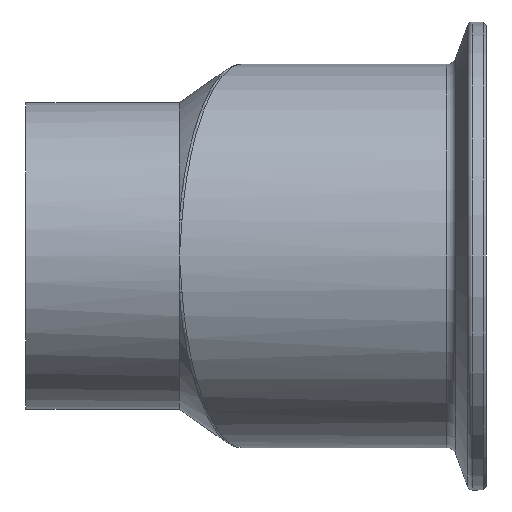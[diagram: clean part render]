
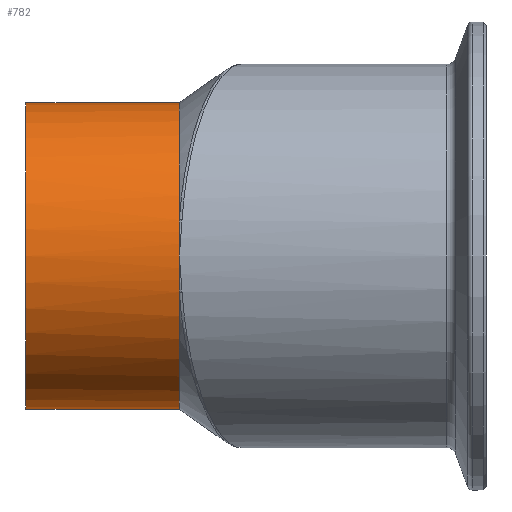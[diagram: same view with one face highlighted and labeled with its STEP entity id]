
A CAD part, front view. The second image highlights one B-rep face of the part: STEP entity #782.
In plain terms, the highlighted cylindrical face has radius 25.4 mm (diameter 50.8 mm), a partial arc.
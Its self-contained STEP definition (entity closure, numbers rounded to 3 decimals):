
#176 = CYLINDRICAL_SURFACE ( 'NONE', #731, 25.4 ) ;
#212 = DIRECTION ( 'NONE',  ( 0., 0., -1. ) ) ;
#234 = CARTESIAN_POINT ( 'NONE',  ( -12.7, -31.036, 5.98 ) ) ;
#248 = VERTEX_POINT ( 'NONE', #1276 ) ;
#317 = EDGE_CURVE ( 'NONE', #736, #647, #447, .T. ) ;
#333 = ORIENTED_EDGE ( 'NONE', *, *, #1419, .F. ) ;
#369 = CARTESIAN_POINT ( 'NONE',  ( 6.473, -6.35, -25.4 ) ) ;
#385 = CARTESIAN_POINT ( 'NONE',  ( -12.7, -6.35, 0. ) ) ;
#388 = ORIENTED_EDGE ( 'NONE', *, *, #958, .F. ) ;
#398 = CIRCLE ( 'NONE', #2001, 25.4 ) ;
#432 = DIRECTION ( 'NONE',  ( 0., 0., -1. ) ) ;
#446 = ORIENTED_EDGE ( 'NONE', *, *, #317, .T. ) ;
#447 = LINE ( 'NONE', #369, #1316 ) ;
#463 = VERTEX_POINT ( 'NONE', #1324 ) ;
#469 = VERTEX_POINT ( 'NONE', #1757 ) ;
#530 = ORIENTED_EDGE ( 'NONE', *, *, #1950, .T. ) ;
#550 = DIRECTION ( 'NONE',  ( 1., 0., 0. ) ) ;
#561 = CARTESIAN_POINT ( 'NONE',  ( -12.7, -6.35, 0. ) ) ;
#647 = VERTEX_POINT ( 'NONE', #1145 ) ;
#684 = EDGE_CURVE ( 'NONE', #1091, #647, #1576, .T. ) ;
#731 = AXIS2_PLACEMENT_3D ( 'NONE', #788, #1100, #1021 ) ;
#736 = VERTEX_POINT ( 'NONE', #766 ) ;
#755 = CIRCLE ( 'NONE', #1583, 25.4 ) ;
#766 = CARTESIAN_POINT ( 'NONE',  ( -38.1, -6.35, -25.4 ) ) ;
#776 = VECTOR ( 'NONE', #938, 1000. ) ;
#782 = ADVANCED_FACE ( 'NONE', ( #1475 ), #176, .T. ) ;
#788 = CARTESIAN_POINT ( 'NONE',  ( 6.473, -6.35, 0. ) ) ;
#870 = EDGE_CURVE ( 'NONE', #469, #1091, #908, .T. ) ;
#908 = CIRCLE ( 'NONE', #1591, 25.4 ) ;
#930 = VERTEX_POINT ( 'NONE', #234 ) ;
#938 = DIRECTION ( 'NONE',  ( 1., 0., 0. ) ) ;
#958 = EDGE_CURVE ( 'NONE', #930, #469, #398, .T. ) ;
#1021 = DIRECTION ( 'NONE',  ( 0., 0., -1. ) ) ;
#1031 = DIRECTION ( 'NONE',  ( 0., 0., -1. ) ) ;
#1042 = DIRECTION ( 'NONE',  ( 1., 0., 0. ) ) ;
#1078 = CARTESIAN_POINT ( 'NONE',  ( 6.473, -6.35, 25.4 ) ) ;
#1080 = CARTESIAN_POINT ( 'NONE',  ( -12.7, -6.35, 0. ) ) ;
#1091 = VERTEX_POINT ( 'NONE', #1385 ) ;
#1100 = DIRECTION ( 'NONE',  ( 1., 0., 0. ) ) ;
#1145 = CARTESIAN_POINT ( 'NONE',  ( -12.7, -6.35, -25.4 ) ) ;
#1211 = AXIS2_PLACEMENT_3D ( 'NONE', #1080, #1042, #1031 ) ;
#1232 = LINE ( 'NONE', #1078, #776 ) ;
#1272 = ORIENTED_EDGE ( 'NONE', *, *, #870, .F. ) ;
#1276 = CARTESIAN_POINT ( 'NONE',  ( -38.1, -6.35, 25.4 ) ) ;
#1285 = EDGE_CURVE ( 'NONE', #248, #463, #1232, .T. ) ;
#1316 = VECTOR ( 'NONE', #1494, 1000. ) ;
#1324 = CARTESIAN_POINT ( 'NONE',  ( -12.7, -6.35, 25.4 ) ) ;
#1385 = CARTESIAN_POINT ( 'NONE',  ( -12.7, -31.036, -5.98 ) ) ;
#1389 = CARTESIAN_POINT ( 'NONE',  ( -38.1, -6.35, 0. ) ) ;
#1402 = DIRECTION ( 'NONE',  ( 0., 0., -1. ) ) ;
#1408 = ORIENTED_EDGE ( 'NONE', *, *, #1285, .F. ) ;
#1419 = EDGE_CURVE ( 'NONE', #463, #930, #1536, .T. ) ;
#1475 = FACE_OUTER_BOUND ( 'NONE', #1928, .T. ) ;
#1494 = DIRECTION ( 'NONE',  ( 1., 0., 0. ) ) ;
#1508 = DIRECTION ( 'NONE',  ( 1., 0., 0. ) ) ;
#1528 = CARTESIAN_POINT ( 'NONE',  ( -12.7, -6.35, 0. ) ) ;
#1536 = CIRCLE ( 'NONE', #1211, 25.4 ) ;
#1576 = CIRCLE ( 'NONE', #2037, 25.4 ) ;
#1583 = AXIS2_PLACEMENT_3D ( 'NONE', #1389, #2041, #212 ) ;
#1591 = AXIS2_PLACEMENT_3D ( 'NONE', #561, #550, #432 ) ;
#1623 = DIRECTION ( 'NONE',  ( 0., 0., -1. ) ) ;
#1662 = ORIENTED_EDGE ( 'NONE', *, *, #684, .F. ) ;
#1757 = CARTESIAN_POINT ( 'NONE',  ( -12.7, -31.75, 0. ) ) ;
#1928 = EDGE_LOOP ( 'NONE', ( #1408, #530, #446, #1662, #1272, #388, #333 ) ) ;
#1950 = EDGE_CURVE ( 'NONE', #248, #736, #755, .T. ) ;
#2001 = AXIS2_PLACEMENT_3D ( 'NONE', #1528, #1508, #1402 ) ;
#2037 = AXIS2_PLACEMENT_3D ( 'NONE', #385, #2057, #1623 ) ;
#2041 = DIRECTION ( 'NONE',  ( 1., 0., 0. ) ) ;
#2057 = DIRECTION ( 'NONE',  ( 1., 0., 0. ) ) ;
